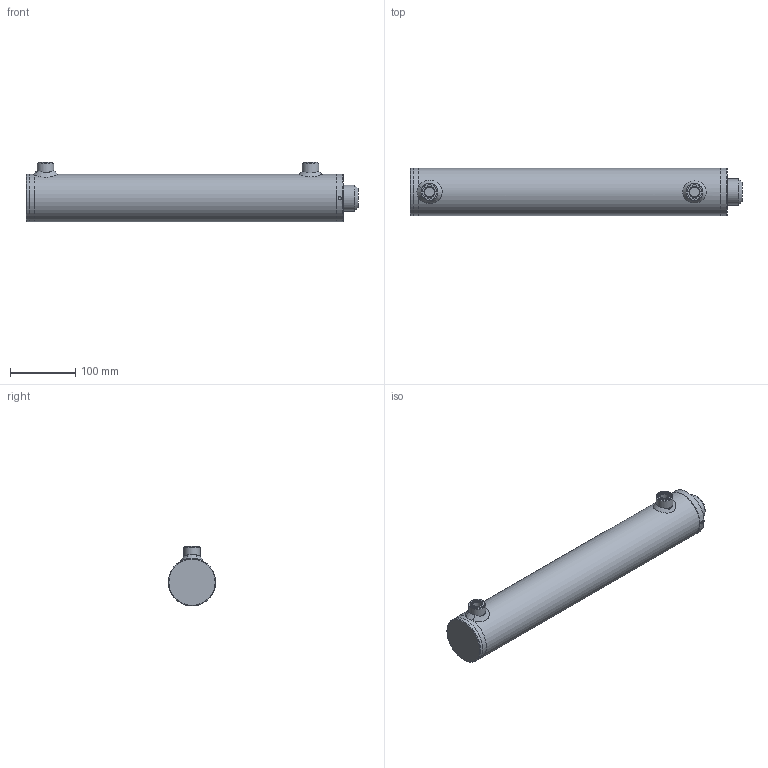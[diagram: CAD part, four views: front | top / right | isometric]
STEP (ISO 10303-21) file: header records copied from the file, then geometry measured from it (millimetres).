
FILE_DESCRIPTION( ( 'Unknown' ), '1' );
FILE_NAME( 'E:/LIBRERIA_3d/CILINDRI/HM0/HM0063400350.stp', 'Unknown', ( 'Unknown' ), ( 'Unknown' ), 'PSStep 17.0.49', 'Unknown', ' ' );
FILE_SCHEMA( ( 'AUTOMOTIVE_DESIGN { 1 0 10303 214 1 1 1 1 }' ) );
Length unit declared in the file: millimetre
Products named in the file (18): CT00063024; STL0630730350-oa4; Saldatura d'angolo 1-oa2; CBS0600000; MAT_PRIMA_TUBO_FT07306300-oa3; CG07306340; Assem1; Saldatura con preparazione 1-oa0; Saldatura d'angolo 1-oa1; CF00063073; CDA0002420; APG0600000; SBL0400630350
Assembly tree (15 placements, depth 3):
  Saldatura d'angolo 1-oa2
  Saldatura d'angolo 1-oa2
  Assem1
    Saldatura con preparazione 1-oa0
    Saldatura con preparazione 1-oa0
    CBS0600000
    CF00063073
    CDA0002420
    APG0600000  x2
    SBL0400630350
    CG07306340
      CG07306340
    CT00063024
      CT00063024
    STL0630730350-oa4
      CBS0600000
      MAT_PRIMA_TUBO_FT07306300-oa3
  Saldatura d'angolo 1-oa1
  Saldatura d'angolo 1-oa1
Bounding box: 510 x 73 x 92 mm (x, y, z)
Volume: 1326026.5 mm3; surface area: 348091.5 mm2
Topology: 16 solids, 16 shells, 202 faces, 412 edges, 255 vertices
Faces by surface type: plane 58, cylinder 55, torus 38, cone 33, bspline 18
Full cylindrical faces by diameter (mm): 4.25 x1, 5 x2, 6 x2, 7 x2, 14.95 x2, 16 x2, 16.6 x2, 22 x2, 23.4 x1, 24 x5, 26 x2, 28.5 x1, 36 x1, 40 x4, 42 x1, 43 x1, 47 x1, 48 x1, 48.6 x1, 58 x1, 58.39 x2, 61.63 x2, 62.9 x1, 63 x1, 63.8 x1, 64 x1, 64.1 x1, 65 x4, 66.376 x1, 68 x1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
Entity records: 8380 total; most frequent: CARTESIAN_POINT 3645, DIRECTION 714, ORIENTED_EDGE 434, AXIS2_PLACEMENT_3D 345, EDGE_LOOP 344, FACE_OUTER_BOUND 277, EDGE_CURVE 217, VERTEX_POINT 196
